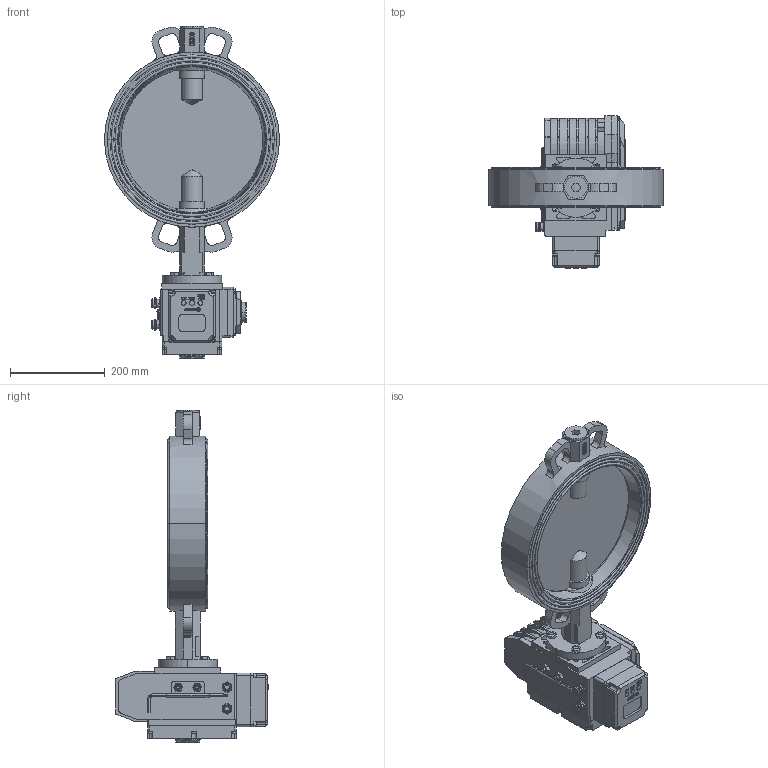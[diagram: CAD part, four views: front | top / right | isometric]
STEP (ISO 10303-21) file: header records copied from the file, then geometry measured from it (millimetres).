
FILE_DESCRIPTION((''),'2;1');
FILE_NAME('VBS_EAR_A_ASM','2025-02-22T',('AMD'),(''),'PRO/ENGINEER BY PARAMETRIC TECHNOLOGY CORPORATION, 2008020','PRO/ENGINEER BY PARAMETRIC TECHNOLOGY CORPORATION, 2008020','');
FILE_SCHEMA(('CONFIG_CONTROL_DESIGN'));
Length unit declared in the file: millimetre
Products named in the file (28): KORPUS; REZ; DISK; SHTIR_1; ZAGLUSHKA; O-RING; SHTIR_2; SHAIBA_RAZREZ; SHAIBA; KOLCO_45_GOST13943; VTULKA; MANZET_REZ; SB_ASM; B-7798-M10-30; DET_1; V-11738-M5; V-11738-M4; DET_2; KREPLENIE; KLUCH; DET_3; G-5915-M10; ELECTROPRIVOD_ASM; DET_4; DET_5; DISPLAY_ASM; ELECTROPRIVOD_WITH_DISPLAY_ASM; VBS_EAR_A_ASM
Assembly tree (55 placements, depth 4):
  VBS_EAR_A_ASM
    SB_ASM
      KORPUS
      REZ
      DISK
      SHTIR_1
      ZAGLUSHKA
      O-RING  x2
      SHTIR_2
      SHAIBA_RAZREZ
      SHAIBA  x2
      KOLCO_45_GOST13943
      VTULKA  x5
      MANZET_REZ
    B-7798-M10-30  x4
    ELECTROPRIVOD_WITH_DISPLAY_ASM
      ELECTROPRIVOD_ASM
        DET_1
        V-11738-M5  x12
        V-11738-M4  x4
        DET_2
        KREPLENIE
        KLUCH
        DET_3
        G-5915-M10  x2
      DISPLAY_ASM
        DET_4
        DET_5
        V-11738-M5  x4
Bounding box: 370 x 322 x 701.5 mm (x, y, z)
Volume: 10198711.8 mm3; surface area: 1366424.4 mm2
Topology: 51 solids, 92 shells, 2909 faces, 7672 edges, 5063 vertices
Faces by surface type: plane 1956, cylinder 521, extrusion 300, cone 94, torus 38
Entity records: 79948 total; most frequent: CARTESIAN_POINT 16691, ORIENTED_EDGE 13368, DIRECTION 11965, EDGE_CURVE 6724, VECTOR 5399, LINE 5099, VERTEX_POINT 4445, AXIS2_PLACEMENT_3D 3283
